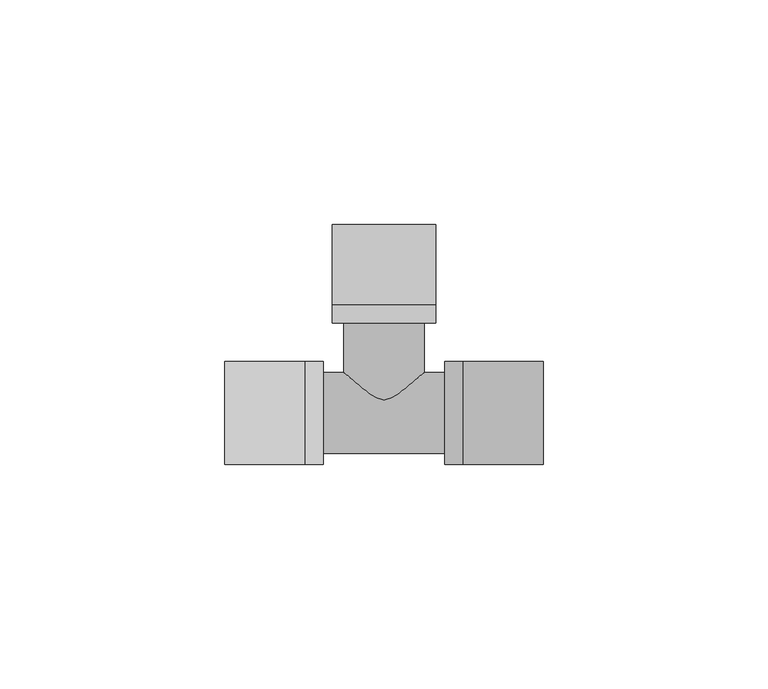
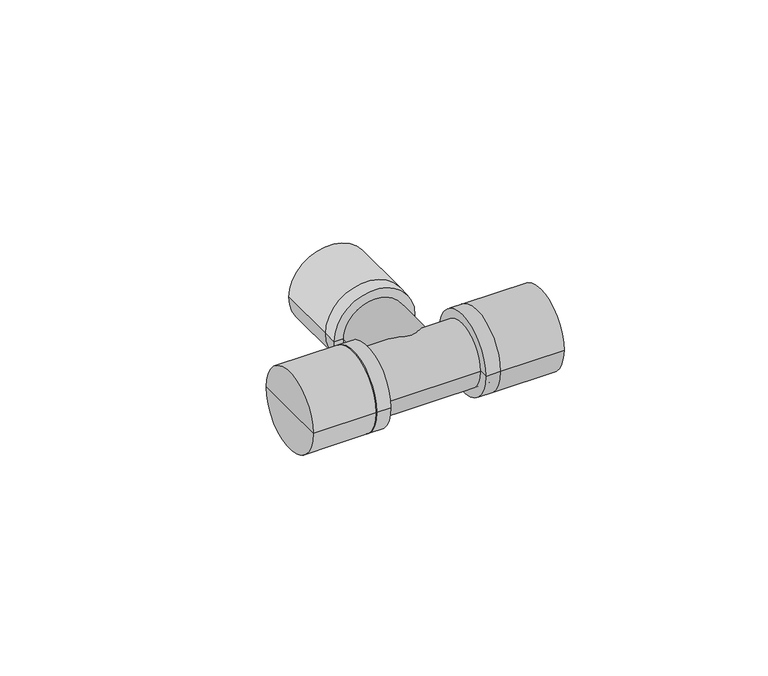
"""IFC4 building model written with IfcOpenShell, lengths in millimetres: pipe fitting geometry, KAN-therm Push 18x2 trójnik PPSU : KAN-therm Push 18x2 trójnik PPSU."""

from ifc_helpers import new_model, si_unit, frame, origin, place, context, project, spatial, circle_curve, source, transform, mapped, element, save
from ifc_brep_helpers import plane_surface, cylinder_surface, advanced_brep


def pipe_fitting_2eb1ac7f(model_context):
    return source(origin(), model_context, "Body", "AdvancedBrep", [
        advanced_brep(
        [(-11.5, 24.0, 0.0), (0.0, 24.0, 0.0), (11.5, 24.0, 0.0), (-11.5, 20.0, 0.0), (11.5, 20.0, 0.0), (0.0, 20.0, 0.0)],
        [
            (0, 1),
            (1, 2),
            (2, 0, circle_curve(frame((0.0, 24.0, 0.0), z_axis=(0.0, 1.0, 0.0), x_axis=(1.0000000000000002, 0.0, 0.0)), 11.5)),
            (0, 2, circle_curve(frame((0.0, 24.0, 0.0), z_axis=(0.0, 1.0, 0.0), x_axis=(1.0000000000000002, 0.0, 0.0)), 11.5)),
            (3, 0),
            (2, 4),
            (4, 3, circle_curve(frame((0.0, 20.0, 0.0), z_axis=(0.0, 1.0, 0.0), x_axis=(1.0000000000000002, 0.0, 0.0)), 11.5)),
            (3, 4, circle_curve(frame((0.0, 20.0, 0.0), z_axis=(0.0, 1.0, 0.0), x_axis=(1.0000000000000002, 0.0, 0.0)), 11.5)),
            (5, 3),
            (4, 5),
        ],
        [
            plane_surface(frame((0.0, 24.0, 0.0), z_axis=(0.0, 1.0, 0.0), x_axis=(1.0, 0.0, 0.0))),
            cylinder_surface(frame((0.0, 2019.0, 0.0), z_axis=(0.0, -1.0000000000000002, 0.0), x_axis=(1.0000000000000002, 0.0, 0.0)), 11.5),
            plane_surface(frame((0.0, 20.0, 0.0), z_axis=(0.0, -1.0, 0.0), x_axis=(1.0, 0.0, 0.0))),
        ],
        [
            (0, [[1, 2, 3]]),
            (0, [[-2, -1, 4]]),
            (1, [[5, -3, 6, 7]]),
            (1, [[-6, -4, -5, 8]]),
            (2, [[9, -7, 10]]),
            (2, [[-10, -8, -9]]),
        ],
    ),
        advanced_brep(
        [(-11.5, 42.0, 0.0), (0.0, 42.0, 0.0), (11.5, 42.0, 0.0), (-11.5, 24.0, 0.0), (11.5, 24.0, 0.0), (0.0, 24.0, 0.0)],
        [
            (0, 1),
            (1, 2),
            (2, 0, circle_curve(frame((0.0, 42.0, 0.0), z_axis=(0.0, 1.0, 0.0), x_axis=(1.0000000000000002, 0.0, 0.0)), 11.5)),
            (0, 2, circle_curve(frame((0.0, 42.0, 0.0), z_axis=(0.0, 1.0, 0.0), x_axis=(1.0000000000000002, 0.0, 0.0)), 11.5)),
            (3, 0),
            (2, 4),
            (4, 3, circle_curve(frame((0.0, 24.0, 0.0), z_axis=(0.0, 1.0, 0.0), x_axis=(1.0000000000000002, 0.0, 0.0)), 11.5)),
            (3, 4, circle_curve(frame((0.0, 24.0, 0.0), z_axis=(0.0, 1.0, 0.0), x_axis=(1.0000000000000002, 0.0, 0.0)), 11.5)),
            (5, 3),
            (4, 5),
        ],
        [
            plane_surface(frame((0.0, 42.0, 0.0), z_axis=(0.0, 1.0, 0.0), x_axis=(1.0, 0.0, 0.0))),
            cylinder_surface(frame((0.0, 2019.0, 0.0), z_axis=(0.0, -1.0000000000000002, 0.0), x_axis=(1.0000000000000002, 0.0, 0.0)), 11.5),
            plane_surface(frame((0.0, 24.0, 0.0), z_axis=(0.0, -1.0, 0.0), x_axis=(1.0, 0.0, 0.0))),
        ],
        [
            (0, [[1, 2, 3]]),
            (0, [[-2, -1, 4]]),
            (1, [[5, -3, 6, 7]]),
            (1, [[-6, -4, -5, 8]]),
            (2, [[9, -7, 10]]),
            (2, [[-10, -8, -9]]),
        ],
    ),
        advanced_brep(
        [(-17.5, -11.5, 0.0), (-17.5, 0.0, 0.0), (-17.5, 11.5, 0.0), (-13.5, -11.5, 0.0), (-13.5, 11.5, 0.0), (-13.5, 0.0, 0.0)],
        [
            (0, 1),
            (1, 2),
            (2, 0, circle_curve(frame((-17.5, 0.0, 0.0), z_axis=(-1.0, 0.0, 0.0), x_axis=(0.0, 1.0, 0.0)), 11.5)),
            (0, 2, circle_curve(frame((-17.5, 0.0, 0.0), z_axis=(-1.0, 0.0, 0.0), x_axis=(0.0, 1.0, 0.0)), 11.5)),
            (3, 0),
            (2, 4),
            (4, 3, circle_curve(frame((-13.5, 0.0, 0.0), z_axis=(-1.0, 0.0, 0.0), x_axis=(0.0, 1.0, 0.0)), 11.5)),
            (3, 4, circle_curve(frame((-13.5, 0.0, 0.0), z_axis=(-1.0, 0.0, 0.0), x_axis=(0.0, 1.0, 0.0)), 11.5)),
            (5, 3),
            (4, 5),
        ],
        [
            plane_surface(frame((-17.5, 0.0, 0.0), z_axis=(-1.0, 0.0, 0.0), x_axis=(0.0, 1.0, 0.0))),
            cylinder_surface(frame((-2012.5, 0.0, 0.0), z_axis=(1.0, 0.0, 0.0), x_axis=(0.0, 1.0, 0.0)), 11.5),
            plane_surface(frame((-13.5, 0.0, 0.0), z_axis=(1.0, 0.0, 0.0), x_axis=(0.0, 1.0, 0.0))),
        ],
        [
            (0, [[1, 2, 3]]),
            (0, [[-2, -1, 4]]),
            (1, [[5, -3, 6, 7]]),
            (1, [[-6, -4, -5, 8]]),
            (2, [[9, -7, 10]]),
            (2, [[-10, -8, -9]]),
        ],
    ),
        advanced_brep(
        [(-35.5, -11.5, 0.0), (-35.5, 0.0, 0.0), (-35.5, 11.5, 0.0), (-17.5, -11.5, 0.0), (-17.5, 11.5, 0.0), (-17.5, 0.0, 0.0)],
        [
            (0, 1),
            (1, 2),
            (2, 0, circle_curve(frame((-35.5, 0.0, 0.0), z_axis=(-1.0, 0.0, 0.0), x_axis=(0.0, 1.0, 0.0)), 11.5)),
            (0, 2, circle_curve(frame((-35.5, 0.0, 0.0), z_axis=(-1.0, 0.0, 0.0), x_axis=(0.0, 1.0, 0.0)), 11.5)),
            (3, 0),
            (2, 4),
            (4, 3, circle_curve(frame((-17.5, 0.0, 0.0), z_axis=(-1.0, 0.0, 0.0), x_axis=(0.0, 1.0, 0.0)), 11.5)),
            (3, 4, circle_curve(frame((-17.5, 0.0, 0.0), z_axis=(-1.0, 0.0, 0.0), x_axis=(0.0, 1.0, 0.0)), 11.5)),
            (5, 3),
            (4, 5),
        ],
        [
            plane_surface(frame((-35.5, 0.0, 0.0), z_axis=(-1.0, 0.0, 0.0), x_axis=(0.0, 1.0, 0.0))),
            cylinder_surface(frame((-2012.5, 0.0, 0.0), z_axis=(1.0, 0.0, 0.0), x_axis=(0.0, 1.0, 0.0)), 11.5),
            plane_surface(frame((-17.5, 0.0, 0.0), z_axis=(1.0, 0.0, 0.0), x_axis=(0.0, 1.0, 0.0))),
        ],
        [
            (0, [[1, 2, 3]]),
            (0, [[-2, -1, 4]]),
            (1, [[5, -3, 6, 7]]),
            (1, [[-6, -4, -5, 8]]),
            (2, [[9, -7, 10]]),
            (2, [[-10, -8, -9]]),
        ],
    ),
        advanced_brep(
        [(17.5, -11.5, 0.0), (17.5, 11.5, 0.0), (17.5, 0.0, 0.0), (13.5, -11.5, 0.0), (13.5, 11.5, 0.0), (13.5, 0.0, 0.0)],
        [
            (0, 1, circle_curve(frame((17.5, 0.0, 0.0), z_axis=(1.0, 0.0, 0.0), x_axis=(0.0, 1.0, 0.0)), 11.5)),
            (1, 2),
            (2, 0),
            (1, 0, circle_curve(frame((17.5, 0.0, 0.0), z_axis=(1.0, 0.0, 0.0), x_axis=(0.0, 1.0, 0.0)), 11.5)),
            (3, 4, circle_curve(frame((13.5, 0.0, 0.0), z_axis=(1.0, 0.0, 0.0), x_axis=(0.0, 1.0, 0.0)), 11.5)),
            (4, 1),
            (0, 3),
            (4, 3, circle_curve(frame((13.5, 0.0, 0.0), z_axis=(1.0, 0.0, 0.0), x_axis=(0.0, 1.0, 0.0)), 11.5)),
            (5, 4),
            (3, 5),
        ],
        [
            plane_surface(frame((17.5, 0.0, 0.0), z_axis=(1.0, 0.0, 0.0), x_axis=(0.0, 1.0, 0.0))),
            cylinder_surface(frame((2012.5, 0.0, 0.0), z_axis=(-1.0, 0.0, 0.0), x_axis=(0.0, 1.0, 0.0)), 11.5),
            plane_surface(frame((13.5, 0.0, 0.0), z_axis=(-1.0, 0.0, 0.0), x_axis=(0.0, 1.0, 0.0))),
        ],
        [
            (0, [[1, 2, 3]]),
            (0, [[4, -3, -2]]),
            (1, [[5, 6, -1, 7]]),
            (1, [[8, -7, -4, -6]]),
            (2, [[9, -5, 10]]),
            (2, [[-10, -8, -9]]),
        ],
    ),
        advanced_brep(
        [(35.5, -11.5, 0.0), (35.5, 11.5, 0.0), (35.5, 0.0, 0.0), (17.5, -11.5, 0.0), (17.5, 11.5, 0.0), (17.5, 0.0, 0.0)],
        [
            (0, 1, circle_curve(frame((35.5, 0.0, 0.0), z_axis=(1.0, 0.0, 0.0), x_axis=(0.0, 1.0, 0.0)), 11.5)),
            (1, 2),
            (2, 0),
            (1, 0, circle_curve(frame((35.5, 0.0, 0.0), z_axis=(1.0, 0.0, 0.0), x_axis=(0.0, 1.0, 0.0)), 11.5)),
            (3, 4, circle_curve(frame((17.5, 0.0, 0.0), z_axis=(1.0, 0.0, 0.0), x_axis=(0.0, 1.0, 0.0)), 11.5)),
            (4, 1),
            (0, 3),
            (4, 3, circle_curve(frame((17.5, 0.0, 0.0), z_axis=(1.0, 0.0, 0.0), x_axis=(0.0, 1.0, 0.0)), 11.5)),
            (5, 4),
            (3, 5),
        ],
        [
            plane_surface(frame((35.5, 0.0, 0.0), z_axis=(1.0, 0.0, 0.0), x_axis=(0.0, 1.0, 0.0))),
            cylinder_surface(frame((2012.5, 0.0, 0.0), z_axis=(-1.0, 0.0, 0.0), x_axis=(0.0, 1.0, 0.0)), 11.5),
            plane_surface(frame((17.5, 0.0, 0.0), z_axis=(-1.0, 0.0, 0.0), x_axis=(0.0, 1.0, 0.0))),
        ],
        [
            (0, [[1, 2, 3]]),
            (0, [[4, -3, -2]]),
            (1, [[5, 6, -1, 7]]),
            (1, [[8, -7, -4, -6]]),
            (2, [[9, -5, 10]]),
            (2, [[-10, -8, -9]]),
        ],
    ),
        advanced_brep(
        [(17.5, -9.0, 0.0), (17.5, 9.0, 0.0), (17.5, 0.0, 0.0), (-17.5, -9.0, 0.0), (-17.5, 9.0, 0.0), (-17.5, 0.0, 0.0)],
        [
            (0, 1, circle_curve(frame((17.5, 0.0, 0.0), z_axis=(1.0, 0.0, 0.0), x_axis=(0.0, 1.0, 0.0)), 9.0)),
            (1, 2),
            (2, 0),
            (1, 0, circle_curve(frame((17.5, 0.0, 0.0), z_axis=(1.0, 0.0, 0.0), x_axis=(0.0, 1.0, 0.0)), 9.0)),
            (3, 4, circle_curve(frame((-17.5, 0.0, 0.0), z_axis=(1.0, 0.0, 0.0), x_axis=(0.0, 1.0, 0.0)), 9.0)),
            (4, 1),
            (0, 3),
            (4, 3, circle_curve(frame((-17.5, 0.0, 0.0), z_axis=(1.0, 0.0, 0.0), x_axis=(0.0, 1.0, 0.0)), 9.0)),
            (5, 4),
            (3, 5),
        ],
        [
            plane_surface(frame((17.5, 0.0, 0.0), z_axis=(1.0, 0.0, 0.0), x_axis=(0.0, 1.0, 0.0))),
            cylinder_surface(frame((2005.0, 0.0, 0.0), z_axis=(-1.0, 0.0, 0.0), x_axis=(0.0, 1.0, 0.0)), 9.0),
            plane_surface(frame((-17.5, 0.0, 0.0), z_axis=(-1.0, 0.0, 0.0), x_axis=(0.0, 1.0, 0.0))),
        ],
        [
            (0, [[1, 2, 3]]),
            (0, [[4, -3, -2]]),
            (1, [[5, 6, -1, 7]]),
            (1, [[8, -7, -4, -6]]),
            (2, [[9, -5, 10]]),
            (2, [[-10, -8, -9]]),
        ],
    ),
        advanced_brep(
        [(-9.0, 0.0, 0.0), (9.0, 0.0, 0.0), (0.0, 0.0, 0.0), (-9.0, 24.0, 0.0), (9.0, 24.0, 0.0), (0.0, 24.0, 0.0)],
        [
            (0, 1, circle_curve(frame((0.0, 0.0, 0.0), z_axis=(0.0, -1.0, 0.0), x_axis=(1.0, 0.0, 0.0)), 9.0)),
            (1, 2),
            (2, 0),
            (1, 0, circle_curve(frame((0.0, 0.0, 0.0), z_axis=(0.0, -1.0, 0.0), x_axis=(1.0, 0.0, 0.0)), 9.0)),
            (3, 4, circle_curve(frame((0.0, 24.0, 0.0), z_axis=(0.0, -1.0, 0.0), x_axis=(1.0, 0.0, 0.0)), 9.0)),
            (4, 1),
            (0, 3),
            (4, 3, circle_curve(frame((0.0, 24.0, 0.0), z_axis=(0.0, -1.0, 0.0), x_axis=(1.0, 0.0, 0.0)), 9.0)),
            (5, 4),
            (3, 5),
        ],
        [
            plane_surface(frame((0.0, 0.0, 0.0), z_axis=(0.0, -1.0, 0.0), x_axis=(1.0, 0.0, 0.0))),
            cylinder_surface(frame((0.0, 2006.0, 0.0), z_axis=(0.0, 1.0, 0.0), x_axis=(1.0, 0.0, 0.0)), 9.0),
            plane_surface(frame((0.0, 24.0, 0.0), z_axis=(0.0, 1.0, 0.0), x_axis=(1.0, 0.0, 0.0))),
        ],
        [
            (0, [[1, 2, 3]]),
            (0, [[4, -3, -2]]),
            (1, [[5, 6, -1, 7]]),
            (1, [[8, -7, -4, -6]]),
            (2, [[9, -5, 10]]),
            (2, [[-10, -8, -9]]),
        ],
    ),
    ])


if __name__ == "__main__":
    model = new_model("IFC4")
    model_context = context("Model", 3, world=origin())
    ifc_project = project(units=[si_unit("LENGTHUNIT", "METRE", prefix="MILLI")], contexts=[model_context])
    site = spatial("IfcSite", under=ifc_project)
    building = spatial("IfcBuilding", under=site)
    placement = place(None, origin())
    pipe_fitting_shape = pipe_fitting_2eb1ac7f(model_context)
    element("IfcPipeFitting", 1, ObjectType="KAN-therm Push 18x2 trójnik PPSU : KAN-therm Push 18x2 trójnik PPSU", at=placement, inside=building, context=model_context, shape_type="MappedRepresentation", body=[
        mapped(pipe_fitting_shape, transform((0.0, 0.0, 0.0), x_axis=(1.0, 0.0, 0.0), y_axis=(0.0, 1.0, 0.0), z_axis=(0.0, 0.0, 1.0))),
    ])
    save(model, "model.ifc")
